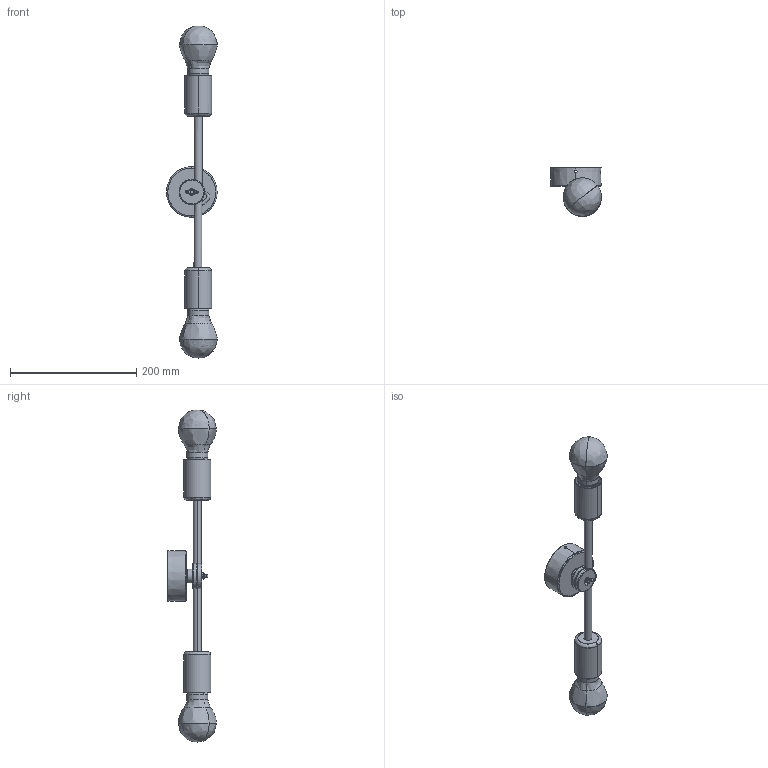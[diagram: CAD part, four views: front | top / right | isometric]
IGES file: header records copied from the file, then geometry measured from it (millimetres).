
Start section: SolidWorks IGES file using analytic representation for surfaces
Global section: file name: Z:\Modele 3D_WWW\_KOLEKCJE_WWW\STICKS\STICKS-6267-9077\STICKS-6267-9077.IGS; native system: SolidWorks 2020; preprocessor: SolidWorks 2020; author: gabriela.tworek; date: 210416.081508; units: millimetre
Bounding box: 80.59 x 77.43 x 526.03 mm (x, y, z)
Surface area: 143987 mm2 (no closed solid volume)
Topology: 0 solids, 0 shells, 323 faces, 4791 edges, 4741 vertices
Faces by surface type: revolution 162, bspline 161
